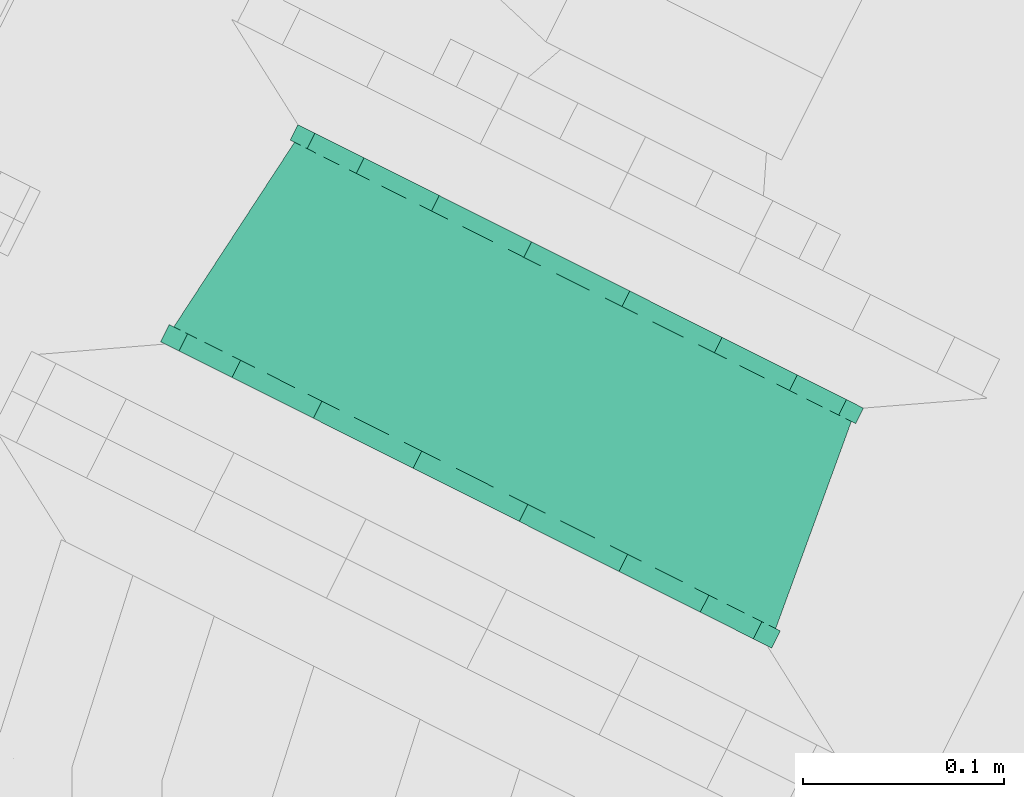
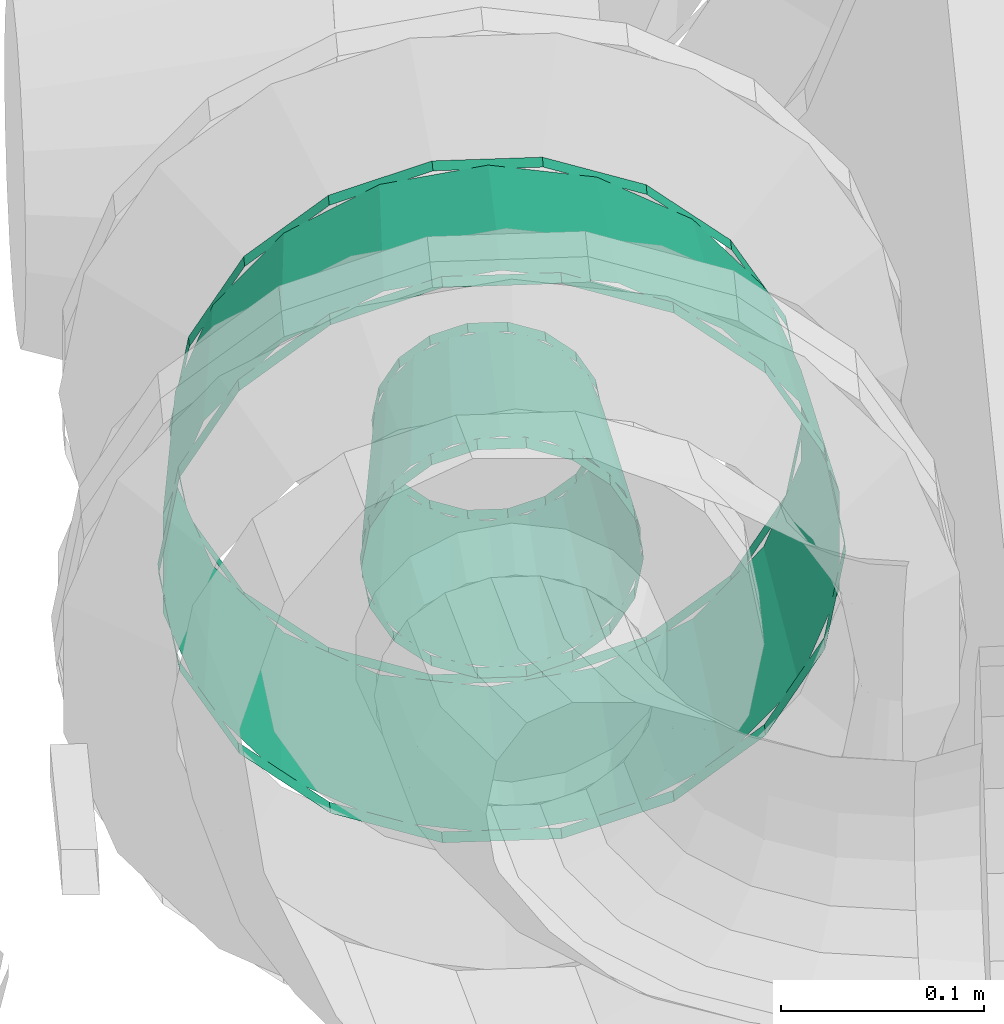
# One storey, part 69 of 206: 1 flow fitting.
"""IFC2X3 building model written with IfcOpenShell, lengths in metres."""

from ifc_helpers import new_model, si_unit, derived_unit, direction, frame, origin, place, context, subcontext, project, spatial, face_set, surface_model, source, transform, mapped, material, type_object, type_shapes, element, save


model = new_model("IFC2X3")

# Units and contexts
model_context = context("Model", 3, precision=5.2338327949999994e-05, world=origin(), true_north=direction((0.0, 1.0)))
body_context = subcontext(model_context, "Body", "Model", "MODEL_VIEW")
ifc_project = project(units=[si_unit("LENGTHUNIT", "METRE"), si_unit("AREAUNIT", "SQUARE_METRE"), si_unit("VOLUMEUNIT", "CUBIC_METRE"), si_unit("MASSUNIT", "GRAM", prefix="KILO"), si_unit("PLANEANGLEUNIT", "RADIAN"), derived_unit("THERMALTRANSMITTANCEUNIT", [(si_unit("MASSUNIT", "GRAM", prefix="KILO"), 1), (si_unit("THERMODYNAMICTEMPERATUREUNIT", "KELVIN"), -1), (si_unit("TIMEUNIT", "SECOND"), -3)])], contexts=[model_context])

# Site, building, storey
site_placement = place(None, frame((0.0, 0.0, 0.0), z_axis=(0.0, 0.0, 1.0), x_axis=(0.8939966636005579, -0.4480736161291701, 0.0)))
site = spatial("IfcSite", under=ifc_project, at=site_placement, Name="Default", CompositionType="ELEMENT")
building_placement = place(site_placement, origin())
building = spatial("IfcBuilding", under=site, at=building_placement, CompositionType="ELEMENT")
storey_placement = place(building_placement, origin())
storey = spatial("IfcBuildingStorey", under=building, at=storey_placement, Name="Erdgeschoss", CompositionType="ELEMENT", Elevation=0.0)

# Flow fitting
ifc_material = material(Name="IfcSurfaceStyle #1741")
distribution_element_type = type_object("IfcDistributionElementType", Name="Übergangsstück 340719:Übergangsstück 340719", material=ifc_material)
shared_shape = source(origin(), body_context, "Body", "SurfaceModel", [
    surface_model("IfcFaceBasedSurfaceModel", [(25.370005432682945, 5.695961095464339, 2.354), (25.37421790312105, 5.695961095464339, 2.3778901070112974), (25.37421790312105, 5.70549026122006, 2.3778901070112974), (25.370005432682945, 5.70549026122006, 2.354), (25.386347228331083, 5.695961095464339, 2.3988987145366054), (25.386347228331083, 5.70549026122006, 2.3988987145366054), (25.404930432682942, 5.695961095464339, 2.4144918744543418), (25.404930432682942, 5.70549026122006, 2.4144918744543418), (25.427726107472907, 5.695961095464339, 2.422788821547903), (25.427726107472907, 5.70549026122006, 2.422788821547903), (25.45198475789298, 5.695961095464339, 2.422788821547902), (25.45198475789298, 5.70549026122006, 2.422788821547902), (25.474780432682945, 5.695961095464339, 2.4144918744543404), (25.474780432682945, 5.70549026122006, 2.4144918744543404), (25.493363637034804, 5.695961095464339, 2.3988987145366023), (25.493363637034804, 5.70549026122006, 2.3988987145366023), (25.505492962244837, 5.695961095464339, 2.377890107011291), (25.505492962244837, 5.70549026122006, 2.377890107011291), (25.509705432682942, 5.695961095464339, 2.353999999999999), (25.509705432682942, 5.70549026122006, 2.353999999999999), (25.505492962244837, 5.695961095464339, 2.3301098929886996), (25.505492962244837, 5.70549026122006, 2.3301098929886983), (25.493363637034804, 5.695961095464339, 2.309101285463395), (25.493363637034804, 5.70549026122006, 2.309101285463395), (25.474780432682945, 5.695961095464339, 2.293508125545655), (25.474780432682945, 5.70549026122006, 2.293508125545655), (25.45198475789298, 5.695961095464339, 2.285211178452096), (25.45198475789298, 5.70549026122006, 2.285211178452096), (25.427726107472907, 5.695961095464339, 2.285211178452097), (25.427726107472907, 5.70549026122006, 2.285211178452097), (25.404930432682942, 5.695961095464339, 2.293508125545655), (25.404930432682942, 5.70549026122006, 2.293508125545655), (25.386347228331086, 5.695961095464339, 2.3091012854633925), (25.386347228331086, 5.70549026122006, 2.3091012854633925), (25.374217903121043, 5.695961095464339, 2.330109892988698), (25.374217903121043, 5.70549026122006, 2.330109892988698), (25.270005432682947, 5.695961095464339, 2.3540000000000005), (25.280248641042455, 5.695961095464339, 2.4120921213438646), (25.280248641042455, 5.70549026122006, 2.4120921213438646), (25.270005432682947, 5.70549026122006, 2.3540000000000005), (25.309742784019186, 5.695961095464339, 2.463177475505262), (25.309742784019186, 5.70549026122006, 2.463177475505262), (25.354930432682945, 5.695961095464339, 2.5010944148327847), (25.354930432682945, 5.70549026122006, 2.5010944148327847), (25.41036128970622, 5.695961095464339, 2.521269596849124), (25.41036128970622, 5.70549026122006, 2.521269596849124), (25.46934957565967, 5.695961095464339, 2.521269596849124), (25.46934957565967, 5.70549026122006, 2.521269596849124), (25.524780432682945, 5.695961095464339, 2.5010944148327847), (25.524780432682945, 5.70549026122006, 2.5010944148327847), (25.569968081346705, 5.695961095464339, 2.463177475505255), (25.569968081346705, 5.70549026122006, 2.463177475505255), (25.599462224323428, 5.695961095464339, 2.4120921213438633), (25.599462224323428, 5.70549026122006, 2.4120921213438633), (25.60970543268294, 5.695961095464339, 2.3539999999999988), (25.60970543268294, 5.70549026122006, 2.3539999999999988), (25.599462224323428, 5.695961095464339, 2.295907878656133), (25.599462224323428, 5.70549026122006, 2.295907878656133), (25.5699680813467, 5.695961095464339, 2.2448225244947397), (25.5699680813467, 5.70549026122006, 2.2448225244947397), (25.524780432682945, 5.695961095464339, 2.2069055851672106), (25.524780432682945, 5.70549026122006, 2.2069055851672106), (25.46934957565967, 5.695961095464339, 2.1867304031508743), (25.46934957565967, 5.70549026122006, 2.1867304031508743), (25.410361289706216, 5.695961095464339, 2.1867304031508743), (25.410361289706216, 5.70549026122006, 2.1867304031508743), (25.354930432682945, 5.695961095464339, 2.2069055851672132), (25.354930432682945, 5.70549026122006, 2.2069055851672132), (25.309742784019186, 5.695961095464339, 2.2448225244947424), (25.309742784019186, 5.70549026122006, 2.2448225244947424), (25.280248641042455, 5.695961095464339, 2.295907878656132), (25.280248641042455, 5.70549026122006, 2.295907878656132), (25.43985543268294, 5.70549026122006, 2.4238499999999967), (25.463745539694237, 5.70549026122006, 2.4196375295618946), (25.459401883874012, 5.814341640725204, 2.4077034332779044), (25.43985543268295, 5.814341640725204, 2.4111499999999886), (25.484754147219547, 5.70549026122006, 2.407508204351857), (25.476590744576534, 5.814341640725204, 2.3977794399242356), (25.500347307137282, 5.70549026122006, 2.388924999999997), (25.48934878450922, 5.814341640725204, 2.382574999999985), (25.50864425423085, 5.70549026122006, 2.366129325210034), (25.49613719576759, 5.814341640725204, 2.3639239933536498), (25.50864425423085, 5.70549026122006, 2.3418706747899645), (25.496137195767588, 5.814341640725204, 2.3440760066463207), (25.500347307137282, 5.70549026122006, 2.3190749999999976), (25.489348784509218, 5.814341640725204, 2.3254249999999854), (25.484754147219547, 5.70549026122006, 2.3004917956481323), (25.476590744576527, 5.814341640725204, 2.310220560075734), (25.463745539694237, 5.70549026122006, 2.288362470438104), (25.459401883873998, 5.814341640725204, 2.300296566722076), (25.43985543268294, 5.70549026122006, 2.2841499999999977), (25.439855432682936, 5.814341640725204, 2.2968499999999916), (25.41596532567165, 5.70549026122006, 2.288362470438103), (25.42030898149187, 5.814341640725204, 2.300296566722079), (25.39495671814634, 5.70549026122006, 2.3004917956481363), (25.40312012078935, 5.814341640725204, 2.3102205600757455), (25.379363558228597, 5.70549026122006, 2.3190750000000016), (25.390362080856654, 5.814341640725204, 2.325424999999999), (25.371066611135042, 5.70549026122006, 2.3418706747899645), (25.38357366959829, 5.814341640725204, 2.3440760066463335), (25.371066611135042, 5.70549026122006, 2.366129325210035), (25.383573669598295, 5.814341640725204, 2.3639239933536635), (25.379363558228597, 5.70549026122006, 2.3889250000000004), (25.390362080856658, 5.814341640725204, 2.382574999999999), (25.39495671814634, 5.70549026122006, 2.4075082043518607), (25.40312012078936, 5.814341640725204, 2.3977794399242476), (25.41596532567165, 5.70549026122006, 2.4196375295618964), (25.42030898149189, 5.814341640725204, 2.4077034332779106), (25.382705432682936, 5.814341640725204, 2.3539999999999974), (25.38615199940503, 5.814341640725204, 2.3735464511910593), (25.38615199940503, 5.82296109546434, 2.3735464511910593), (25.382705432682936, 5.82296109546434, 2.3539999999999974), (25.3960759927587, 5.814341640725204, 2.390735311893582), (25.3960759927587, 5.82296109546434, 2.390735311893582), (25.411280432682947, 5.814341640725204, 2.403493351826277), (25.411280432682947, 5.82296109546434, 2.403493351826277), (25.42993143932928, 5.814341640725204, 2.4102817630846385), (25.42993143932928, 5.82296109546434, 2.4102817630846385), (25.44977942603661, 5.814341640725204, 2.4102817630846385), (25.44977942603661, 5.82296109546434, 2.4102817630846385), (25.468430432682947, 5.814341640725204, 2.4034933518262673), (25.468430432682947, 5.82296109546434, 2.4034933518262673), (25.483634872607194, 5.814341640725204, 2.390735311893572), (25.483634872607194, 5.82296109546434, 2.390735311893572), (25.493558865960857, 5.814341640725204, 2.373546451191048), (25.493558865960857, 5.82296109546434, 2.373546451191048), (25.49700543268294, 5.814341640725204, 2.3539999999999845), (25.49700543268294, 5.82296109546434, 2.3539999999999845), (25.49355886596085, 5.814341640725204, 2.334453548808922), (25.49355886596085, 5.82296109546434, 2.334453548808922), (25.483634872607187, 5.814341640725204, 2.3172646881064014), (25.483634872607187, 5.82296109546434, 2.3172646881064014), (25.468430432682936, 5.814341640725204, 2.3045066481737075), (25.468430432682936, 5.82296109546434, 2.3045066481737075), (25.449779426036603, 5.814341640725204, 2.297718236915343), (25.449779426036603, 5.82296109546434, 2.297718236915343), (25.429931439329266, 5.814341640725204, 2.297718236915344), (25.429931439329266, 5.82296109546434, 2.297718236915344), (25.411280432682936, 5.814341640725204, 2.304506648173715), (25.411280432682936, 5.82296109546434, 2.304506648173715), (25.396075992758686, 5.814341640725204, 2.317264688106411), (25.396075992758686, 5.82296109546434, 2.317264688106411), (25.386151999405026, 5.814341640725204, 2.3344535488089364), (25.386151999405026, 5.82296109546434, 2.3344535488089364), (25.439855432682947, 5.70549026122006, 2.5238499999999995), (25.49794755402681, 5.70549026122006, 2.5136067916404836), (25.493603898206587, 5.814341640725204, 2.501672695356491), (25.439855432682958, 5.814341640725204, 2.511149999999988), (25.5490329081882, 5.70549026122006, 2.484112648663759), (25.540869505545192, 5.814341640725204, 2.4743838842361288), (25.586949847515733, 5.70549026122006, 2.438925), (25.575951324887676, 5.814341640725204, 2.4325749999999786), (25.607125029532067, 5.70549026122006, 2.3834941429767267), (25.594617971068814, 5.814341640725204, 2.3812888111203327), (25.607125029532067, 5.70549026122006, 2.32450585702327), (25.59461797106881, 5.814341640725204, 2.3267111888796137), (25.586949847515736, 5.705490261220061, 2.2690749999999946), (25.575951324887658, 5.814341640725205, 2.2754249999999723), (25.5490329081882, 5.70549026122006, 2.223887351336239), (25.540869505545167, 5.814341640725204, 2.2336161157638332), (25.497947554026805, 5.70549026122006, 2.194393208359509), (25.493603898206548, 5.814341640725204, 2.2063273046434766), (25.43985543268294, 5.70549026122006, 2.1841499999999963), (25.439855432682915, 5.814341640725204, 2.196849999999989), (25.38176331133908, 5.70549026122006, 2.1943932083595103), (25.386106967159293, 5.814341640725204, 2.2063273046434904), (25.330677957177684, 5.70549026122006, 2.2238873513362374), (25.338841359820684, 5.814341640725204, 2.233616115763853), (25.292761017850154, 5.70549026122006, 2.2690749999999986), (25.303759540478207, 5.814341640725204, 2.2754250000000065), (25.272585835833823, 5.70549026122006, 2.3245058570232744), (25.285092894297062, 5.814341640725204, 2.3267111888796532), (25.272585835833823, 5.70549026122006, 2.3834941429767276), (25.28509289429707, 5.814341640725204, 2.3812888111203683), (25.29276101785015, 5.70549026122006, 2.438925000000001), (25.303759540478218, 5.814341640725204, 2.432575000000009), (25.330677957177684, 5.70549026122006, 2.4841126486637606), (25.33884135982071, 5.814341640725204, 2.474383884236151), (25.38176331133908, 5.70549026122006, 2.5136067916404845), (25.38610696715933, 5.814341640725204, 2.5016726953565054), (25.282705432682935, 5.814341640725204, 2.3540000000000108), (25.29218273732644, 5.814341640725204, 2.4077484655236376), (25.29218273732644, 5.82296109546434, 2.4077484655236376), (25.282705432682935, 5.82296109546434, 2.3540000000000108), (25.319471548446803, 5.814341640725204, 2.4550140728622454), (25.319471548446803, 5.82296109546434, 2.4550140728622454), (25.361280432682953, 5.814341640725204, 2.4900958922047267), (25.361280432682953, 5.82296109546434, 2.4900958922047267), (25.412566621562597, 5.814341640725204, 2.5087625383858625), (25.412566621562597, 5.82296109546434, 2.5087625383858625), (25.467144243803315, 5.814341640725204, 2.508762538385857), (25.467144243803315, 5.82296109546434, 2.508762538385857), (25.51843043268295, 5.814341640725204, 2.4900958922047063), (25.51843043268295, 5.82296109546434, 2.4900958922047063), (25.56023931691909, 5.814341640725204, 2.4550140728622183), (25.56023931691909, 5.82296109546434, 2.4550140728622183), (25.587528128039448, 5.814341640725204, 2.4077484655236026), (25.587528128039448, 5.82296109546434, 2.4077484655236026), (25.597005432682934, 5.814341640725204, 2.3539999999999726), (25.597005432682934, 5.82296109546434, 2.3539999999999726), (25.587528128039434, 5.814341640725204, 2.300251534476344), (25.587528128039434, 5.82296109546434, 2.300251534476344), (25.56023931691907, 5.814341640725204, 2.252985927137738), (25.56023931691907, 5.82296109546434, 2.252985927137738), (25.518430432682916, 5.814341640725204, 2.2179041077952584), (25.518430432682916, 5.82296109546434, 2.2179041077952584), (25.467144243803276, 5.814341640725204, 2.1992374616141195), (25.467144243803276, 5.82296109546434, 2.1992374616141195), (25.412566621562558, 5.814341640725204, 2.199237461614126), (25.412566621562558, 5.82296109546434, 2.199237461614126), (25.361280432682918, 5.814341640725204, 2.2179041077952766), (25.361280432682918, 5.82296109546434, 2.2179041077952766), (25.31947154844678, 5.814341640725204, 2.2529859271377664), (25.31947154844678, 5.82296109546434, 2.2529859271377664), (25.292182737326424, 5.814341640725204, 2.3002515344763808), (25.292182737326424, 5.82296109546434, 2.3002515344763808)], [face_set([[[0, 1, 2, 3]], [[1, 4, 5, 2]], [[4, 6, 7, 5]], [[6, 8, 9, 7]], [[8, 10, 11, 9]], [[10, 12, 13, 11]], [[12, 14, 15, 13]], [[14, 16, 17, 15]], [[16, 18, 19, 17]], [[18, 20, 21, 19]], [[20, 22, 23, 21]], [[22, 24, 25, 23]], [[24, 26, 27, 25]], [[26, 28, 29, 27]], [[28, 30, 31, 29]], [[30, 32, 33, 31]], [[32, 34, 35, 33]], [[34, 0, 3, 35]], [[36, 37, 38, 39]], [[37, 40, 41, 38]], [[40, 42, 43, 41]], [[42, 44, 45, 43]], [[44, 46, 47, 45]], [[46, 48, 49, 47]], [[48, 50, 51, 49]], [[50, 52, 53, 51]], [[52, 54, 55, 53]], [[54, 56, 57, 55]], [[56, 58, 59, 57]], [[58, 60, 61, 59]], [[60, 62, 63, 61]], [[62, 64, 65, 63]], [[64, 66, 67, 65]], [[66, 68, 69, 67]], [[68, 70, 71, 69]], [[70, 36, 39, 71]], [[72, 73, 74, 75]], [[73, 76, 77, 74]], [[76, 78, 79, 77]], [[78, 80, 81, 79]], [[80, 82, 83, 81]], [[82, 84, 85, 83]], [[84, 86, 87, 85]], [[86, 88, 89, 87]], [[88, 90, 91, 89]], [[90, 92, 93, 91]], [[92, 94, 95, 93]], [[94, 96, 97, 95]], [[96, 98, 99, 97]], [[98, 100, 101, 99]], [[100, 102, 103, 101]], [[102, 104, 105, 103]], [[104, 106, 107, 105]], [[106, 72, 75, 107]], [[108, 109, 110, 111]], [[109, 112, 113, 110]], [[112, 114, 115, 113]], [[114, 116, 117, 115]], [[116, 118, 119, 117]], [[118, 120, 121, 119]], [[120, 122, 123, 121]], [[122, 124, 125, 123]], [[124, 126, 127, 125]], [[126, 128, 129, 127]], [[128, 130, 131, 129]], [[130, 132, 133, 131]], [[132, 134, 135, 133]], [[134, 136, 137, 135]], [[136, 138, 139, 137]], [[138, 140, 141, 139]], [[140, 142, 143, 141]], [[142, 108, 111, 143]], [[144, 145, 146, 147]], [[145, 148, 149, 146]], [[148, 150, 151, 149]], [[150, 152, 153, 151]], [[152, 154, 155, 153]], [[154, 156, 157, 155]], [[156, 158, 159, 157]], [[158, 160, 161, 159]], [[160, 162, 163, 161]], [[162, 164, 165, 163]], [[164, 166, 167, 165]], [[166, 168, 169, 167]], [[168, 170, 171, 169]], [[170, 172, 173, 171]], [[172, 174, 175, 173]], [[174, 176, 177, 175]], [[176, 178, 179, 177]], [[178, 144, 147, 179]], [[180, 181, 182, 183]], [[181, 184, 185, 182]], [[184, 186, 187, 185]], [[186, 188, 189, 187]], [[188, 190, 191, 189]], [[190, 192, 193, 191]], [[192, 194, 195, 193]], [[194, 196, 197, 195]], [[196, 198, 199, 197]], [[198, 200, 201, 199]], [[200, 202, 203, 201]], [[202, 204, 205, 203]], [[204, 206, 207, 205]], [[206, 208, 209, 207]], [[208, 210, 211, 209]], [[210, 212, 213, 211]], [[212, 214, 215, 213]], [[214, 180, 183, 215]]])]),
])
type_shapes(distribution_element_type, [shared_shape])
flow_fitting_placement = place(storey_placement, origin())
element("IfcFlowFitting", 1, at=flow_fitting_placement, inside=storey, type_object=distribution_element_type, material=ifc_material, Name="Übergangsstück", ObjectType="Übergangsstück", context=body_context, shape_type="MappedRepresentation", body=[
    mapped(shared_shape, transform((0.0, 0.0, 0.0), scale=1.0)),
])

save(model, "model.ifc")
